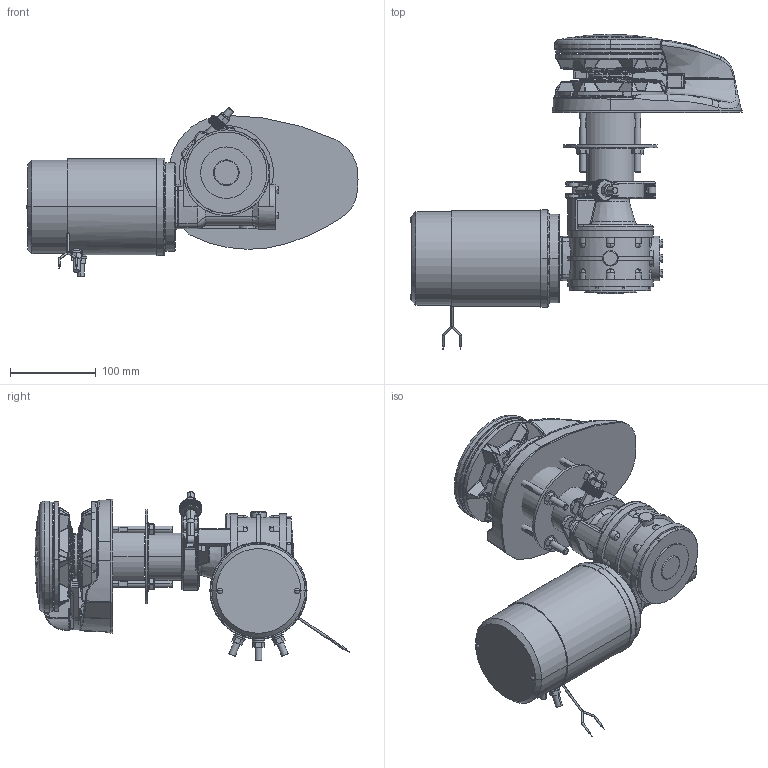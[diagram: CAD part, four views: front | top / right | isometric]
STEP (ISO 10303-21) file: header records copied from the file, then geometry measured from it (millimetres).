
FILE_DESCRIPTION((''),'2;1');
FILE_NAME('V1_SPORT_SW0001','2010-02-01T',('MDance'),(''),'PRO/ENGINEER BY PARAMETRIC TECHNOLOGY CORPORATION, 2007030','PRO/ENGINEER BY PARAMETRIC TECHNOLOGY CORPORATION, 2007030','');
FILE_SCHEMA(('CONFIG_CONTROL_DESIGN'));
Products named in the file (1): V1_SPORT_SW0001
Bounding box: 387.8 x 367.93 x 196.85 mm (x, y, z)
Surface area: 528860.1 mm2 (no closed solid volume)
Topology: 0 solids, 522 shells, 3924 faces, 12464 edges, 8812 vertices
Faces by surface type: bspline 1991, cylinder 913, plane 439, cone 247, torus 234, extrusion 49, sphere 48, revolution 3
Entity records: 231557 total; most frequent: CARTESIAN_POINT 148959, ORIENTED_EDGE 18132, EDGE_CURVE 12393, DIRECTION 10107, VERTEX_POINT 8812, B_SPLINE_CURVE_WITH_KNOTS 8514, AXIS2_PLACEMENT_3D 4243, EDGE_LOOP 3924
